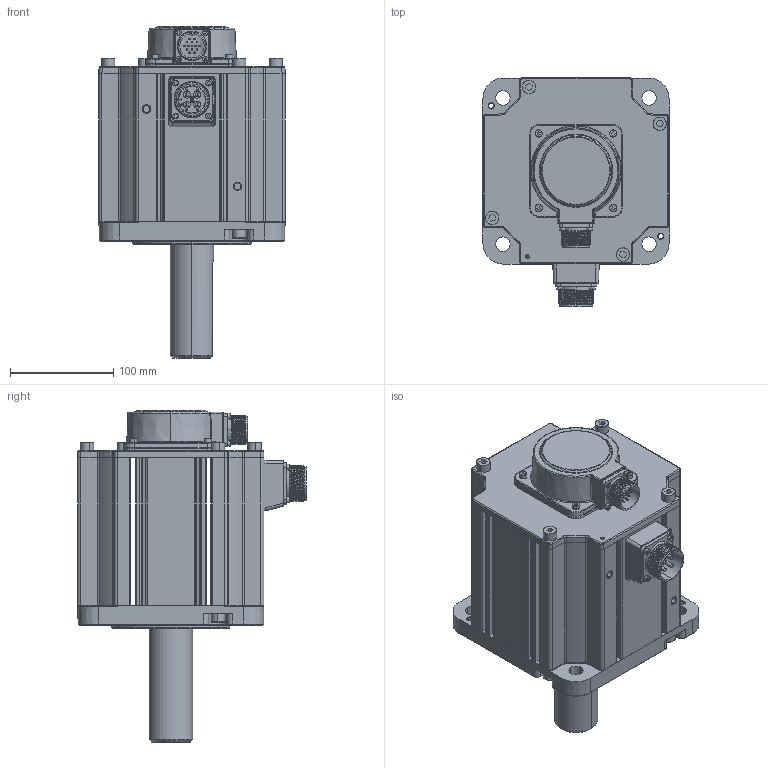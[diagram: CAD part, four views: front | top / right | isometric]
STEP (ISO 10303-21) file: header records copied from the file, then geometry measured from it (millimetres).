
FILE_DESCRIPTION (( 'STEP AP203' ), '1' );
FILE_NAME ('MS6G-180CN15B2-45P5.STEP', '2023-12-30T03:14:20', ( '' ), ( '' ), 'SwSTEP 2.0', 'SolidWorks 2022', '' );
FILE_SCHEMA (( 'CONFIG_CONTROL_DESIGN' ));
Products named in the file (1): MS6G-180CN15B2-45P5
Bounding box: 180 x 220.9 x 321 mm (x, y, z)
Surface area: 267350.2 mm2 (no closed solid volume)
Topology: 0 solids, 69 shells, 1223 faces, 3704 edges, 2511 vertices
Faces by surface type: plane 409, cylinder 381, bspline 158, torus 130, cone 101, sphere 44
Entity records: 59849 total; most frequent: CARTESIAN_POINT 28350, DIRECTION 6417, ORIENTED_EDGE 6111, EDGE_CURVE 3658, VERTEX_POINT 2511, AXIS2_PLACEMENT_3D 2373, VECTOR 1671, LINE 1671
